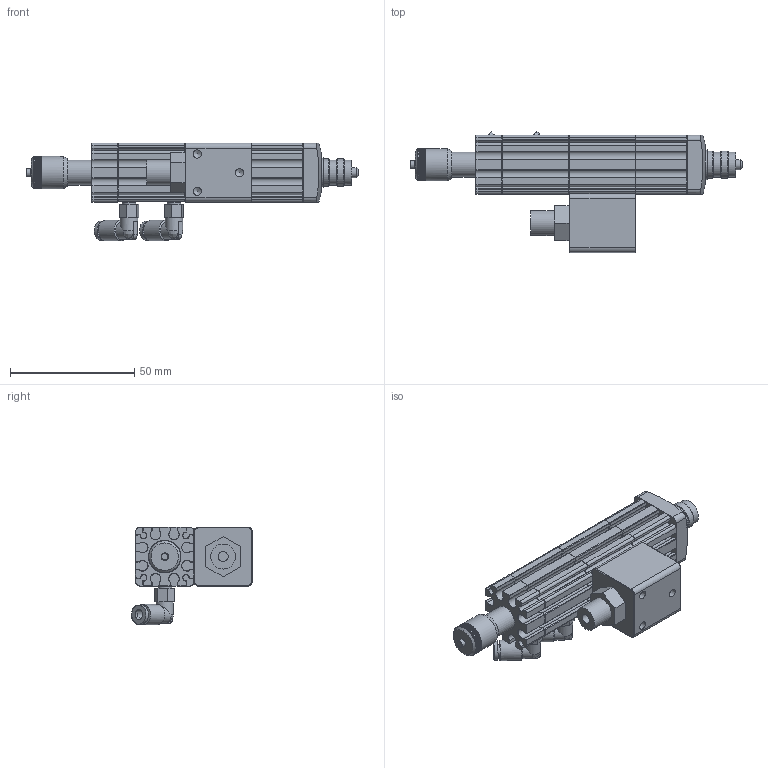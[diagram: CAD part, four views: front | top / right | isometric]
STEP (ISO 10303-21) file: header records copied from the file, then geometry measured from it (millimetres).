
FILE_DESCRIPTION (( 'STEP AP214' ), '1' );
FILE_NAME ('DAV-200-SY.STEP', '2024-10-11T10:16:36', ( '' ), ( '' ), 'SwSTEP 2.0', 'SolidWorks 2024', '' );
FILE_SCHEMA (( 'AUTOMOTIVE_DESIGN' ));
Length unit declared in the file: millimetre
Products named in the file (1): DAV-200-SY
Bounding box: 133.4 x 48.74 x 39.26 mm (x, y, z)
Volume: 56994.2 mm3; surface area: 25523.5 mm2
Topology: 1 solids, 1 shells, 1348 faces, 3337 edges, 1914 vertices
Faces by surface type: plane 846, cone 274, cylinder 219, bspline 9
Full cylindrical faces by diameter (mm): 1.7 x1, 2.17 x1, 3 x1, 3.3 x3, 4 x4, 4.8 x2, 5 x2, 5.5 x2, 7 x2, 7.7 x2, 8 x1, 8.2 x2, 9.97 x1, 10 x3, 11 x2, 11.92 x1, 13 x1
Entity records: 39588 total; most frequent: CARTESIAN_POINT 9877, ORIENTED_EDGE 6350, DIRECTION 5857, EDGE_CURVE 3175, AXIS2_PLACEMENT_3D 1992, VERTEX_POINT 1897, VECTOR 1873, LINE 1873
